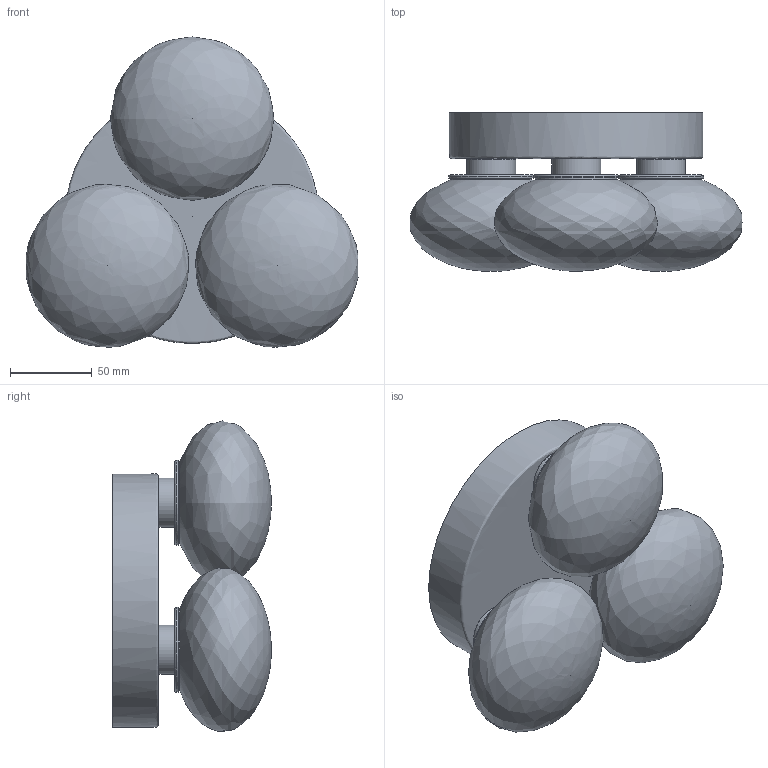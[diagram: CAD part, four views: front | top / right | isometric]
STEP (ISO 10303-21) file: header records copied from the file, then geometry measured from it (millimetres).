
FILE_DESCRIPTION(/* description */ (''),/* implementation_level */ '2;1');
FILE_NAME(/* name */ 'SkLO_Dot_Sconce_3_LTM04_3D',/* time_stamp */ '2024-10-21T10:45:48+02:00',/* author */ (''),/* organization */ (''),/* preprocessor_version */ 'ST-DEVELOPER v16.5',/* originating_system */ 'Rhino 7.34',/* authorisation */ '');
FILE_SCHEMA (('CONFIG_CONTROL_DESIGN'));
Length unit declared in the file: millimetre
Products named in the file (1): Document
Bounding box: 203.02 x 97.01 x 189.76 mm (x, y, z)
Volume: 350420.5 mm3; surface area: 245875.6 mm2
Topology: 23 solids, 23 shells, 221 faces, 514 edges, 314 vertices
Faces by surface type: plane 99, bspline 66, cylinder 56
Full cylindrical faces by diameter (mm): 2 x1, 25 x3, 26 x3, 26.613 x3, 27 x3, 27.877 x3, 30 x6, 36 x3, 50 x3, 52 x3, 152.6 x1
Entity records: 9297 total; most frequent: CARTESIAN_POINT 5991, ORIENTED_EDGE 992, EDGE_CURVE 496, VERTEX_POINT 313, EDGE_LOOP 259, ADVANCED_FACE 221, FACE_OUTER_BOUND 221, DIRECTION 161
